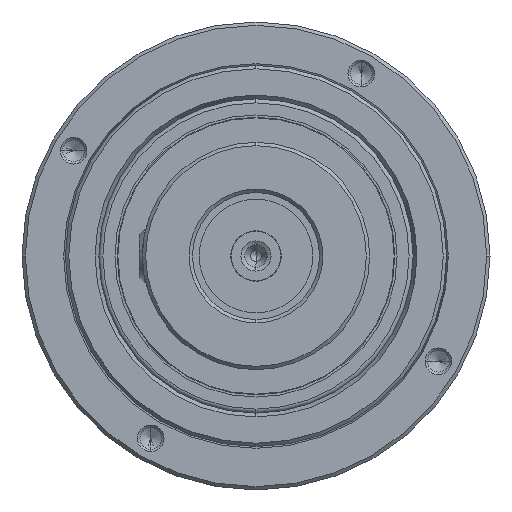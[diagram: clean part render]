
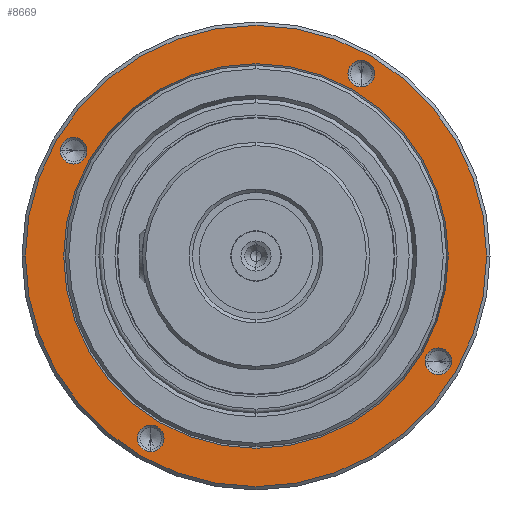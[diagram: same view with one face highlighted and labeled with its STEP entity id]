
A CAD part, left-side view. The second image highlights one B-rep face of the part: STEP entity #8669.
In plain terms, the highlighted planar face has unit normal (-1, 0, 0).
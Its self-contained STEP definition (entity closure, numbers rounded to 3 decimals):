
#66 = CARTESIAN_POINT ( 'NONE',  ( 0., 15.75, -27.28 ) ) ;
#114 = DIRECTION ( 'NONE',  ( 1., 0., 0. ) ) ;
#216 = EDGE_LOOP ( 'NONE', ( #8833, #7105 ) ) ;
#343 = CARTESIAN_POINT ( 'NONE',  ( 0., 34.5, 0. ) ) ;
#348 = DIRECTION ( 'NONE',  ( 0., -1., 0. ) ) ;
#408 = CARTESIAN_POINT ( 'NONE',  ( 0., -15.75, 27.28 ) ) ;
#573 = VERTEX_POINT ( 'NONE', #343 ) ;
#608 = CARTESIAN_POINT ( 'NONE',  ( 0., -27.28, -15.75 ) ) ;
#616 = DIRECTION ( 'NONE',  ( -1., 0., 0. ) ) ;
#704 = CARTESIAN_POINT ( 'NONE',  ( 0., -15.75, 25.28 ) ) ;
#843 = EDGE_CURVE ( 'NONE', #3014, #5041, #997, .T. ) ;
#961 = EDGE_LOOP ( 'NONE', ( #2356, #5871 ) ) ;
#977 = CARTESIAN_POINT ( 'NONE',  ( 0., -28.768, 0. ) ) ;
#997 = CIRCLE ( 'NONE', #2164, 2. ) ;
#1016 = CARTESIAN_POINT ( 'NONE',  ( 0., 0., 0. ) ) ;
#1084 = VERTEX_POINT ( 'NONE', #5826 ) ;
#1107 = CIRCLE ( 'NONE', #6075, 2. ) ;
#1256 = DIRECTION ( 'NONE',  ( 0., 0., -1. ) ) ;
#1320 = CIRCLE ( 'NONE', #3072, 28.768 ) ;
#1366 = AXIS2_PLACEMENT_3D ( 'NONE', #408, #4600, #1256 ) ;
#1512 = DIRECTION ( 'NONE',  ( 1., 0., 0. ) ) ;
#1533 = EDGE_LOOP ( 'NONE', ( #2082, #8938 ) ) ;
#1593 = FACE_BOUND ( 'NONE', #1533, .T. ) ;
#1755 = ORIENTED_EDGE ( 'NONE', *, *, #5308, .T. ) ;
#1789 = EDGE_LOOP ( 'NONE', ( #2402, #2589 ) ) ;
#1829 = DIRECTION ( 'NONE',  ( 1., 0., 0. ) ) ;
#1973 = DIRECTION ( 'NONE',  ( 1., 0., 0. ) ) ;
#1994 = CARTESIAN_POINT ( 'NONE',  ( 0., 31.75, 0. ) ) ;
#2082 = ORIENTED_EDGE ( 'NONE', *, *, #4339, .T. ) ;
#2097 = CARTESIAN_POINT ( 'NONE',  ( 0., 27.28, 15.75 ) ) ;
#2164 = AXIS2_PLACEMENT_3D ( 'NONE', #2097, #7031, #6322 ) ;
#2229 = CIRCLE ( 'NONE', #1366, 2. ) ;
#2281 = DIRECTION ( 'NONE',  ( -1., 0., 0. ) ) ;
#2356 = ORIENTED_EDGE ( 'NONE', *, *, #7908, .F. ) ;
#2402 = ORIENTED_EDGE ( 'NONE', *, *, #3705, .T. ) ;
#2404 = EDGE_CURVE ( 'NONE', #4555, #2745, #5411, .T. ) ;
#2446 = CARTESIAN_POINT ( 'NONE',  ( 0., 29.28, 15.75 ) ) ;
#2454 = EDGE_LOOP ( 'NONE', ( #4381, #1755 ) ) ;
#2563 = CARTESIAN_POINT ( 'NONE',  ( 0., 15.75, -25.28 ) ) ;
#2589 = ORIENTED_EDGE ( 'NONE', *, *, #8361, .T. ) ;
#2704 = AXIS2_PLACEMENT_3D ( 'NONE', #1994, #616, #4746 ) ;
#2745 = VERTEX_POINT ( 'NONE', #5025 ) ;
#2862 = ORIENTED_EDGE ( 'NONE', *, *, #8867, .F. ) ;
#2942 = DIRECTION ( 'NONE',  ( 0., 0., 1. ) ) ;
#3014 = VERTEX_POINT ( 'NONE', #3899 ) ;
#3072 = AXIS2_PLACEMENT_3D ( 'NONE', #6407, #2281, #8569 ) ;
#3317 = CIRCLE ( 'NONE', #6679, 2. ) ;
#3705 = EDGE_CURVE ( 'NONE', #7408, #6222, #2229, .T. ) ;
#3739 = CIRCLE ( 'NONE', #8960, 2. ) ;
#3899 = CARTESIAN_POINT ( 'NONE',  ( 0., 25.28, 15.75 ) ) ;
#3954 = DIRECTION ( 'NONE',  ( 0., -1., 0. ) ) ;
#3970 = FACE_BOUND ( 'NONE', #8885, .T. ) ;
#4179 = AXIS2_PLACEMENT_3D ( 'NONE', #1016, #4550, #4641 ) ;
#4265 = CARTESIAN_POINT ( 'NONE',  ( 0., -29.28, -15.75 ) ) ;
#4283 = VERTEX_POINT ( 'NONE', #977 ) ;
#4320 = DIRECTION ( 'NONE',  ( 0., 0., -1. ) ) ;
#4339 = EDGE_CURVE ( 'NONE', #2745, #4555, #8909, .T. ) ;
#4381 = ORIENTED_EDGE ( 'NONE', *, *, #7019, .T. ) ;
#4397 = FACE_BOUND ( 'NONE', #2454, .T. ) ;
#4550 = DIRECTION ( 'NONE',  ( 1., 0., 0. ) ) ;
#4555 = VERTEX_POINT ( 'NONE', #4265 ) ;
#4600 = DIRECTION ( 'NONE',  ( 1., 0., 0. ) ) ;
#4641 = DIRECTION ( 'NONE',  ( 0., -1., 0. ) ) ;
#4746 = DIRECTION ( 'NONE',  ( 0., 0., 1. ) ) ;
#4862 = VERTEX_POINT ( 'NONE', #7452 ) ;
#4876 = AXIS2_PLACEMENT_3D ( 'NONE', #7703, #1973, #8983 ) ;
#4940 = CIRCLE ( 'NONE', #7791, 2. ) ;
#4967 = CARTESIAN_POINT ( 'NONE',  ( 0., 0., 0. ) ) ;
#4998 = EDGE_CURVE ( 'NONE', #573, #6813, #8484, .T. ) ;
#5025 = CARTESIAN_POINT ( 'NONE',  ( 0., -25.28, -15.75 ) ) ;
#5041 = VERTEX_POINT ( 'NONE', #2446 ) ;
#5308 = EDGE_CURVE ( 'NONE', #1084, #5447, #1107, .T. ) ;
#5328 = FACE_BOUND ( 'NONE', #1789, .T. ) ;
#5411 = CIRCLE ( 'NONE', #5850, 2. ) ;
#5447 = VERTEX_POINT ( 'NONE', #2563 ) ;
#5473 = CIRCLE ( 'NONE', #8327, 28.768 ) ;
#5702 = DIRECTION ( 'NONE',  ( 0., 0., 1. ) ) ;
#5826 = CARTESIAN_POINT ( 'NONE',  ( 0., 15.75, -29.28 ) ) ;
#5850 = AXIS2_PLACEMENT_3D ( 'NONE', #608, #6300, #8512 ) ;
#5871 = ORIENTED_EDGE ( 'NONE', *, *, #4998, .F. ) ;
#6025 = DIRECTION ( 'NONE',  ( 0., -1., 0. ) ) ;
#6075 = AXIS2_PLACEMENT_3D ( 'NONE', #6488, #6409, #5702 ) ;
#6222 = VERTEX_POINT ( 'NONE', #7016 ) ;
#6300 = DIRECTION ( 'NONE',  ( 1., 0., 0. ) ) ;
#6322 = DIRECTION ( 'NONE',  ( 0., -1., 0. ) ) ;
#6407 = CARTESIAN_POINT ( 'NONE',  ( 0., 0., 0. ) ) ;
#6409 = DIRECTION ( 'NONE',  ( 1., 0., 0. ) ) ;
#6488 = CARTESIAN_POINT ( 'NONE',  ( 0., 15.75, -27.28 ) ) ;
#6679 = AXIS2_PLACEMENT_3D ( 'NONE', #66, #114, #2942 ) ;
#6729 = DIRECTION ( 'NONE',  ( 1., 0., 0. ) ) ;
#6813 = VERTEX_POINT ( 'NONE', #8198 ) ;
#7016 = CARTESIAN_POINT ( 'NONE',  ( 0., -15.75, 29.28 ) ) ;
#7019 = EDGE_CURVE ( 'NONE', #5447, #1084, #3317, .T. ) ;
#7031 = DIRECTION ( 'NONE',  ( 1., 0., 0. ) ) ;
#7042 = CIRCLE ( 'NONE', #7807, 34.5 ) ;
#7105 = ORIENTED_EDGE ( 'NONE', *, *, #7443, .T. ) ;
#7215 = PLANE ( 'NONE',  #2704 ) ;
#7332 = DIRECTION ( 'NONE',  ( -1., 0., 0. ) ) ;
#7408 = VERTEX_POINT ( 'NONE', #704 ) ;
#7443 = EDGE_CURVE ( 'NONE', #5041, #3014, #3739, .T. ) ;
#7452 = CARTESIAN_POINT ( 'NONE',  ( 0., 28.768, 0. ) ) ;
#7528 = FACE_OUTER_BOUND ( 'NONE', #961, .T. ) ;
#7703 = CARTESIAN_POINT ( 'NONE',  ( 0., -27.28, -15.75 ) ) ;
#7731 = EDGE_CURVE ( 'NONE', #4862, #4283, #1320, .T. ) ;
#7791 = AXIS2_PLACEMENT_3D ( 'NONE', #7851, #1512, #4320 ) ;
#7807 = AXIS2_PLACEMENT_3D ( 'NONE', #4967, #6729, #6025 ) ;
#7851 = CARTESIAN_POINT ( 'NONE',  ( 0., -15.75, 27.28 ) ) ;
#7908 = EDGE_CURVE ( 'NONE', #6813, #573, #7042, .T. ) ;
#8013 = ORIENTED_EDGE ( 'NONE', *, *, #7731, .F. ) ;
#8095 = CARTESIAN_POINT ( 'NONE',  ( 0., 0., 0. ) ) ;
#8171 = CARTESIAN_POINT ( 'NONE',  ( 0., 27.28, 15.75 ) ) ;
#8198 = CARTESIAN_POINT ( 'NONE',  ( 0., -34.5, 0. ) ) ;
#8202 = FACE_BOUND ( 'NONE', #216, .T. ) ;
#8327 = AXIS2_PLACEMENT_3D ( 'NONE', #8095, #7332, #3954 ) ;
#8361 = EDGE_CURVE ( 'NONE', #6222, #7408, #4940, .T. ) ;
#8484 = CIRCLE ( 'NONE', #4179, 34.5 ) ;
#8512 = DIRECTION ( 'NONE',  ( 0., 1., 0. ) ) ;
#8569 = DIRECTION ( 'NONE',  ( 0., -1., 0. ) ) ;
#8669 = ADVANCED_FACE ( 'NONE', ( #7528, #1593, #5328, #8202, #4397, #3970 ), #7215, .T. ) ;
#8833 = ORIENTED_EDGE ( 'NONE', *, *, #843, .T. ) ;
#8867 = EDGE_CURVE ( 'NONE', #4283, #4862, #5473, .T. ) ;
#8885 = EDGE_LOOP ( 'NONE', ( #2862, #8013 ) ) ;
#8909 = CIRCLE ( 'NONE', #4876, 2. ) ;
#8938 = ORIENTED_EDGE ( 'NONE', *, *, #2404, .T. ) ;
#8960 = AXIS2_PLACEMENT_3D ( 'NONE', #8171, #1829, #348 ) ;
#8983 = DIRECTION ( 'NONE',  ( 0., 1., 0. ) ) ;
